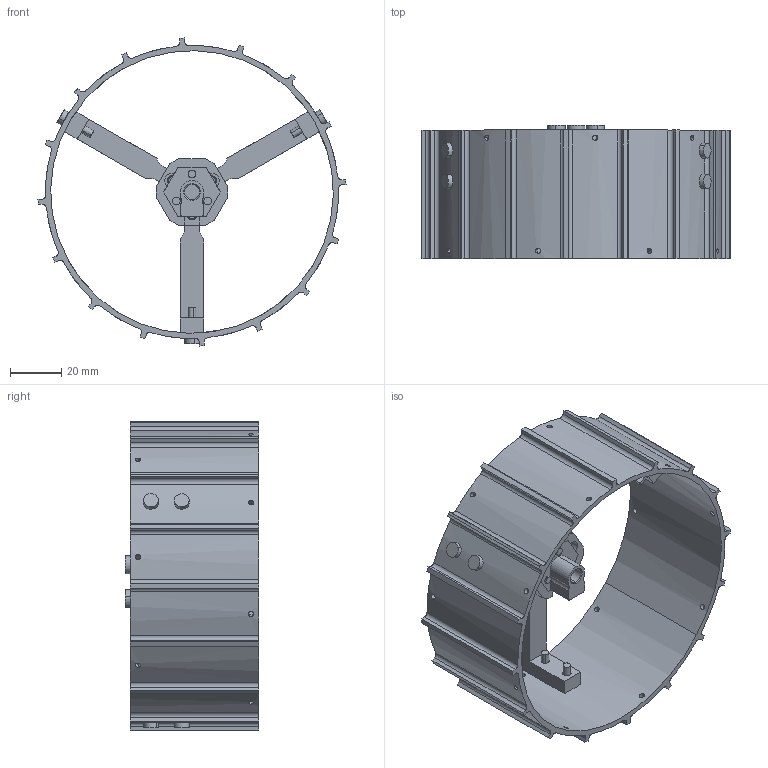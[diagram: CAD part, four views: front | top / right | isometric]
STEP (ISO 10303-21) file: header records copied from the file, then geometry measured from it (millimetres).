
FILE_DESCRIPTION (( 'STEP AP214' ), '1' );
FILE_NAME ('Esialgne.STEP', '2025-05-19T12:18:51', ( '' ), ( '' ), 'SwSTEP 2.0', 'SolidWorks 2024', '' );
FILE_SCHEMA (( 'AUTOMOTIVE_DESIGN' ));
Length unit declared in the file: millimetre
Products named in the file (7): KK.009.007.Wheel_adapter_hexagon; KK.021.003.Motor_hub_hexagon_alu; M3_12mm; M4; KK.022.004.Spork_for_old_hub; Wheel; Esialgne
Assembly tree (18 placements, depth 2):
  Esialgne
    KK.021.003.Motor_hub_hexagon_alu
    KK.022.004.Spork_for_old_hub  x3
    Wheel
    KK.009.007.Wheel_adapter_hexagon
    M4  x3
    M3_12mm  x9
Bounding box: 119.86 x 52 x 119.86 mm (x, y, z)
Volume: 57358 mm3; surface area: 54297.6 mm2
Topology: 18 solids, 18 shells, 441 faces, 1142 edges, 746 vertices
Faces by surface type: cylinder 238, plane 187, cone 16
Entity records: 12564 total; most frequent: CARTESIAN_POINT 3632, ORIENTED_EDGE 1828, DIRECTION 1790, EDGE_CURVE 914, AXIS2_PLACEMENT_3D 632, VERTEX_POINT 594, VECTOR 526, LINE 526
